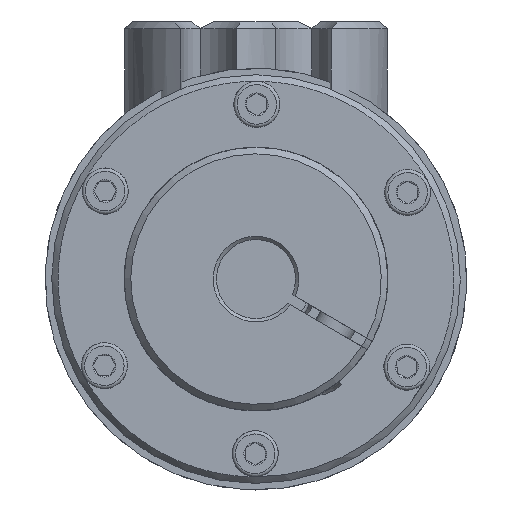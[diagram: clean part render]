
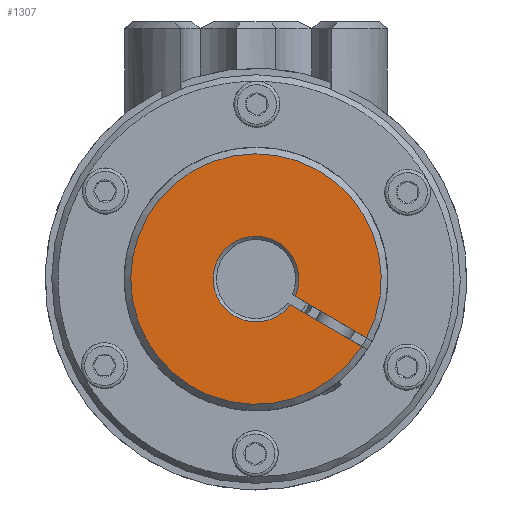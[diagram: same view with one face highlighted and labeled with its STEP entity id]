
A CAD part, left-side view. The second image highlights one B-rep face of the part: STEP entity #1307.
In plain terms, the highlighted planar face has unit normal (-1, 0, 0) as drawn and (0, 0, -1) by its records, which use the part's own axes.
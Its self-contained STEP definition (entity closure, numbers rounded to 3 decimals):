
#1307 = ADVANCED_FACE( '', ( #2517 ), #2518, .T. );
#2517 = FACE_OUTER_BOUND( '', #3551, .T. );
#2518 = PLANE( '', #3552 );
#3551 = EDGE_LOOP( '', ( #5312, #5313, #5314, #5315 ) );
#3552 = AXIS2_PLACEMENT_3D( '', #5316, #5317, #5318 );
#5312 = ORIENTED_EDGE( '', *, *, #7101, .T. );
#5313 = ORIENTED_EDGE( '', *, *, #7140, .T. );
#5314 = ORIENTED_EDGE( '', *, *, #7126, .F. );
#5315 = ORIENTED_EDGE( '', *, *, #7097, .T. );
#5316 = CARTESIAN_POINT( '', ( 0., 0., 0. ) );
#5317 = DIRECTION( '', ( 0., 0., -1. ) );
#5318 = DIRECTION( '', ( 0., -1., 0. ) );
#7097 = EDGE_CURVE( '', #8098, #8096, #8099, .T. );
#7101 = EDGE_CURVE( '', #8096, #8104, #8106, .T. );
#7126 = EDGE_CURVE( '', #8098, #8150, #8151, .F. );
#7140 = EDGE_CURVE( '', #8104, #8150, #8171, .F. );
#8096 = VERTEX_POINT( '', #9574 );
#8098 = VERTEX_POINT( '', #9579 );
#8099 = CIRCLE( '', #9580, 19. );
#8104 = VERTEX_POINT( '', #9589 );
#8106 = LINE( '', #9594, #9595 );
#8150 = VERTEX_POINT( '', #9679 );
#8151 = LINE( '', #9680, #9681 );
#8171 = CIRCLE( '', #9710, 6.5 );
#9574 = CARTESIAN_POINT( '', ( -18.985, -0.75, 0. ) );
#9579 = CARTESIAN_POINT( '', ( -18.985, 0.75, 0. ) );
#9580 = AXIS2_PLACEMENT_3D( '', #10874, #10875, #10876 );
#9589 = CARTESIAN_POINT( '', ( -6.457, -0.75, 0. ) );
#9594 = CARTESIAN_POINT( '', ( 0., -0.75, 0. ) );
#9595 = VECTOR( '', #10878, 1000. );
#9679 = CARTESIAN_POINT( '', ( -6.457, 0.75, 0. ) );
#9680 = CARTESIAN_POINT( '', ( -20., 0.75, 0. ) );
#9681 = VECTOR( '', #10914, 1000. );
#9710 = AXIS2_PLACEMENT_3D( '', #10942, #10943, #10944 );
#10874 = CARTESIAN_POINT( '', ( 0., 0., 0. ) );
#10875 = DIRECTION( '', ( 0., 0., -1. ) );
#10876 = DIRECTION( '', ( -1., 0., 0. ) );
#10878 = DIRECTION( '', ( 1., 0., 0. ) );
#10914 = DIRECTION( '', ( -1., 0., 0. ) );
#10942 = CARTESIAN_POINT( '', ( 0., 0., 0. ) );
#10943 = DIRECTION( '', ( 0., 0., -1. ) );
#10944 = DIRECTION( '', ( -1., 0., 0. ) );
